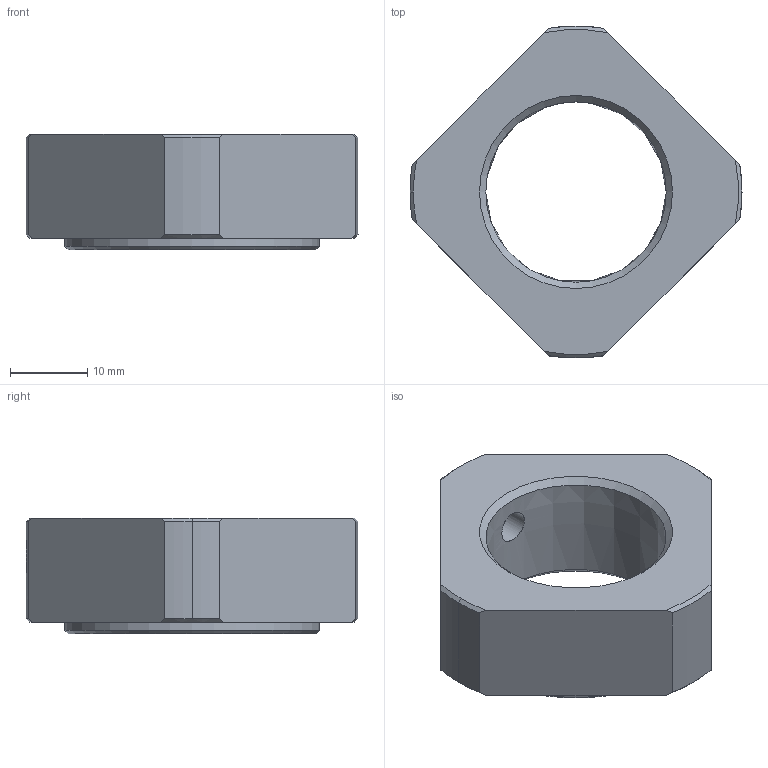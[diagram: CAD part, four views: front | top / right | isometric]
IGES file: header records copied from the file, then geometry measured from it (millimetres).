
Start section: Data from Parasolid IGES Translator 26.0.171, Copyright(c) 2006 Siemens PLM Software. All Rights Reserved.
Global section: file name: RN 25.igs; native system: By Siemens PLM Incorporated; preprocessor: XPlus GENERIC/IGES 26.0.171; author: Noname; organization: Noname; date: 20250611.074206; units: millimetre
Bounding box: 43 x 42.97 x 15 mm (x, y, z)
Surface area: 4446.3 mm2 (no closed solid volume)
Topology: 0 solids, 0 shells, 39 faces, 194 edges, 191 vertices
Faces by surface type: revolution 23, extrusion 16
